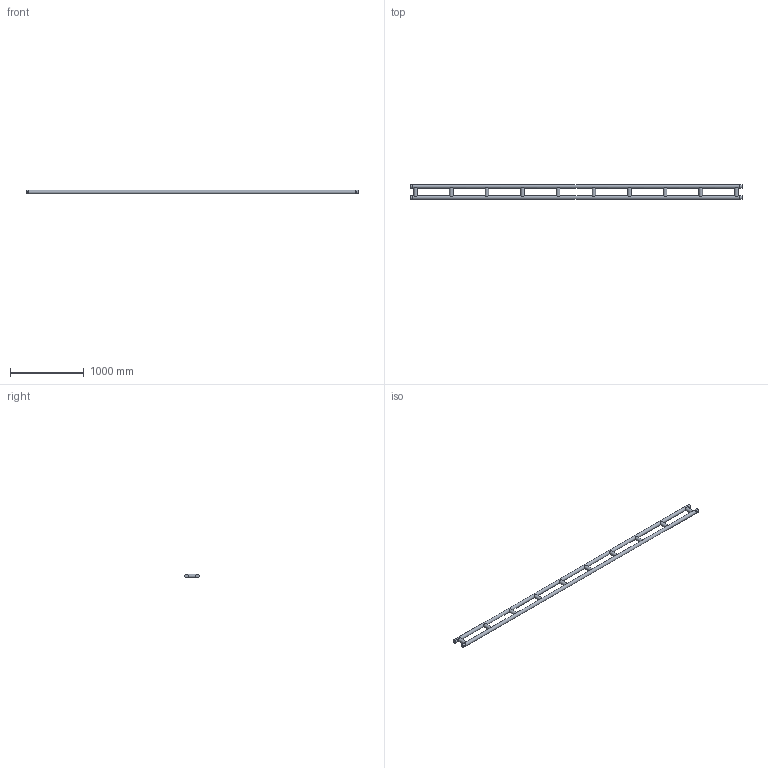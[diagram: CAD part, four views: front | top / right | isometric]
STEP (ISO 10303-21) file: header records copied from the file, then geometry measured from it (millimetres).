
FILE_DESCRIPTION(/* description */ (''),/* implementation_level */ '2;1');
FILE_NAME(/* name */ 'C:\Users\adrian.toca\Desktop\111050572.stp',/* time_stamp */ '2016-09-30T16:49:56+03:00',/* author */ ('adrian.toca'),/* organization */ (''),/* preprocessor_version */ 'ST-DEVELOPER v15.6',/* originating_system */ 'Autodesk Inventor 2015',/* authorisation */ '');
FILE_SCHEMA (('AUTOMOTIVE_DESIGN { 1 0 10303 214 3 1 1 }'));
Length unit declared in the file: millimetre
Products named in the file (1): 260031053
Bounding box: 4500 x 198.3 x 48.3 mm (x, y, z)
Volume: 18462325.4 mm3; surface area: 1517436.5 mm2
Topology: 1 solids, 1 shells, 72 faces, 260 edges, 172 vertices
Faces by surface type: plane 48, cylinder 20, cone 4
Full cylindrical faces by diameter (mm): 10 x4, 48.3 x16
Entity records: 2459 total; most frequent: CARTESIAN_POINT 617, DIRECTION 378, ORIENTED_EDGE 304, AXIS2_PLACEMENT_3D 169, EDGE_CURVE 152, EDGE_LOOP 128, VERTEX_POINT 112, STYLED_ITEM 73
